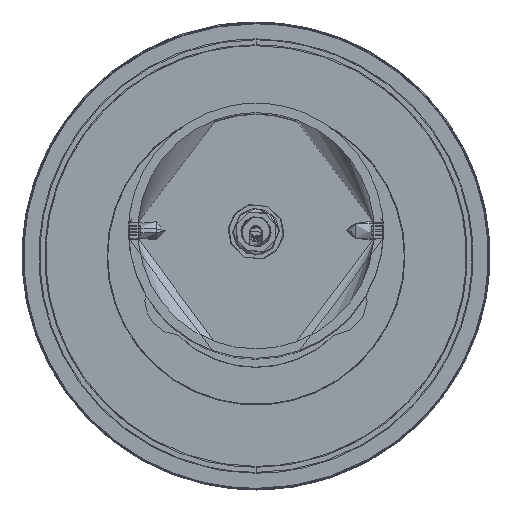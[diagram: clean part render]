
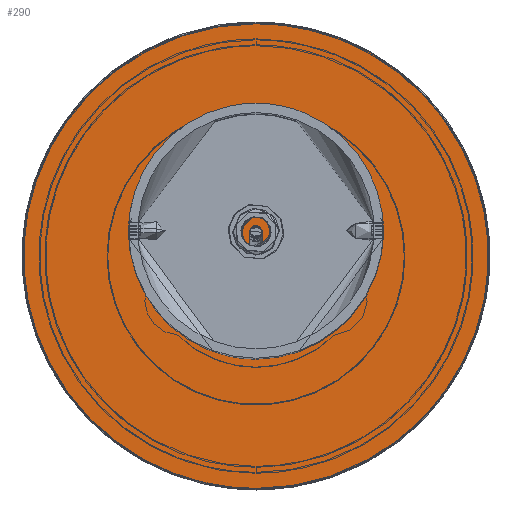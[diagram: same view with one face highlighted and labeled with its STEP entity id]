
A CAD part, top view. The second image highlights one B-rep face of the part: STEP entity #290.
In plain terms, the highlighted planar face has unit normal (0, 0, 1).
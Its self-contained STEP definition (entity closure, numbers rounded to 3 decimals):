
#67=FACE_BOUND('',#889,.T.);
#290=ADVANCED_FACE('',(#578,#67),#4104,.T.);
#578=FACE_OUTER_BOUND('',#888,.T.);
#888=EDGE_LOOP('',(#2004,#2005));
#889=EDGE_LOOP('',(#2006,#2007));
#2004=ORIENTED_EDGE('',*,*,#2864,.T.);
#2005=ORIENTED_EDGE('',*,*,#2812,.F.);
#2006=ORIENTED_EDGE('',*,*,#2931,.T.);
#2007=ORIENTED_EDGE('',*,*,#2755,.T.);
#2755=EDGE_CURVE('',#3924,#3923,#3492,.T.);
#2812=EDGE_CURVE('',#3980,#3981,#3536,.T.);
#2864=EDGE_CURVE('',#3980,#3981,#3558,.T.);
#2931=EDGE_CURVE('',#3923,#3924,#3610,.T.);
#3492=(
BOUNDED_CURVE()
B_SPLINE_CURVE(2,(#34559,#34560,#34561,#34562,#34563),.UNSPECIFIED.,.F.,
 .F.)
B_SPLINE_CURVE_WITH_KNOTS((3,2,3),(-7.854,-3.927,
0.),.UNSPECIFIED.)
CURVE()
GEOMETRIC_REPRESENTATION_ITEM()
RATIONAL_B_SPLINE_CURVE((1.,0.707,1.,0.707,1.))
REPRESENTATION_ITEM('')
);
#3536=(
BOUNDED_CURVE()
B_SPLINE_CURVE(2,(#34763,#34764,#34765,#34766,#34767),.UNSPECIFIED.,.F.,
 .F.)
B_SPLINE_CURVE_WITH_KNOTS((3,2,3),(0.,79.006,158.011),
 .UNSPECIFIED.)
CURVE()
GEOMETRIC_REPRESENTATION_ITEM()
RATIONAL_B_SPLINE_CURVE((1.,0.707,1.,0.707,1.))
REPRESENTATION_ITEM('')
);
#3558=(
BOUNDED_CURVE()
B_SPLINE_CURVE(2,(#34933,#34934,#34935,#34936,#34937),.UNSPECIFIED.,.F.,
 .F.)
B_SPLINE_CURVE_WITH_KNOTS((3,2,3),(-158.011,-79.006,
0.),.UNSPECIFIED.)
CURVE()
GEOMETRIC_REPRESENTATION_ITEM()
RATIONAL_B_SPLINE_CURVE((1.,0.707,1.,0.707,1.))
REPRESENTATION_ITEM('')
);
#3610=(
BOUNDED_CURVE()
B_SPLINE_CURVE(2,(#35187,#35188,#35189,#35190,#35191),.UNSPECIFIED.,.F.,
 .F.)
B_SPLINE_CURVE_WITH_KNOTS((3,2,3),(-7.854,-3.927,
0.),.UNSPECIFIED.)
CURVE()
GEOMETRIC_REPRESENTATION_ITEM()
RATIONAL_B_SPLINE_CURVE((1.,0.707,1.,0.707,1.))
REPRESENTATION_ITEM('')
);
#3923=VERTEX_POINT('',#34452);
#3924=VERTEX_POINT('',#34453);
#3980=VERTEX_POINT('',#34509);
#3981=VERTEX_POINT('',#34510);
#4104=PLANE('',#4412);
#4412=AXIS2_PLACEMENT_3D('',#32741,#4483,$);
#4483=DIRECTION('',(0.,0.,1.));
#32741=CARTESIAN_POINT('',(60.356,-85.806,53.55));
#34452=CARTESIAN_POINT('',(0.,-27.95,53.55));
#34453=CARTESIAN_POINT('',(0.,-22.95,53.55));
#34509=CARTESIAN_POINT('',(0.,-75.746,53.55));
#34510=CARTESIAN_POINT('',(0.,24.846,53.55));
#34559=CARTESIAN_POINT('',(0.,-22.95,53.55));
#34560=CARTESIAN_POINT('',(2.5,-22.95,53.55));
#34561=CARTESIAN_POINT('',(2.5,-25.45,53.55));
#34562=CARTESIAN_POINT('',(2.5,-27.95,53.55));
#34563=CARTESIAN_POINT('',(0.,-27.95,53.55));
#34763=CARTESIAN_POINT('',(0.,-75.746,53.55));
#34764=CARTESIAN_POINT('',(-50.296,-75.746,53.55));
#34765=CARTESIAN_POINT('',(-50.296,-25.45,53.55));
#34766=CARTESIAN_POINT('',(-50.296,24.846,53.55));
#34767=CARTESIAN_POINT('',(0.,24.846,53.55));
#34933=CARTESIAN_POINT('',(0.,-75.746,53.55));
#34934=CARTESIAN_POINT('',(50.296,-75.746,53.55));
#34935=CARTESIAN_POINT('',(50.296,-25.45,53.55));
#34936=CARTESIAN_POINT('',(50.296,24.846,53.55));
#34937=CARTESIAN_POINT('',(0.,24.846,53.55));
#35187=CARTESIAN_POINT('',(0.,-27.95,53.55));
#35188=CARTESIAN_POINT('',(-2.5,-27.95,53.55));
#35189=CARTESIAN_POINT('',(-2.5,-25.45,53.55));
#35190=CARTESIAN_POINT('',(-2.5,-22.95,53.55));
#35191=CARTESIAN_POINT('',(0.,-22.95,53.55));
